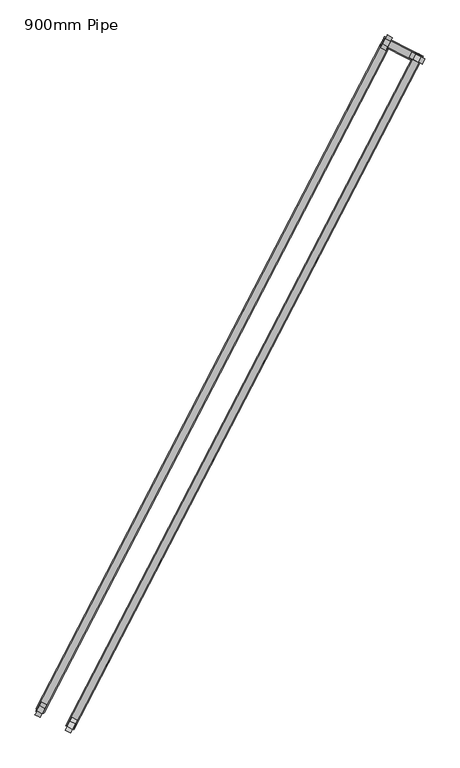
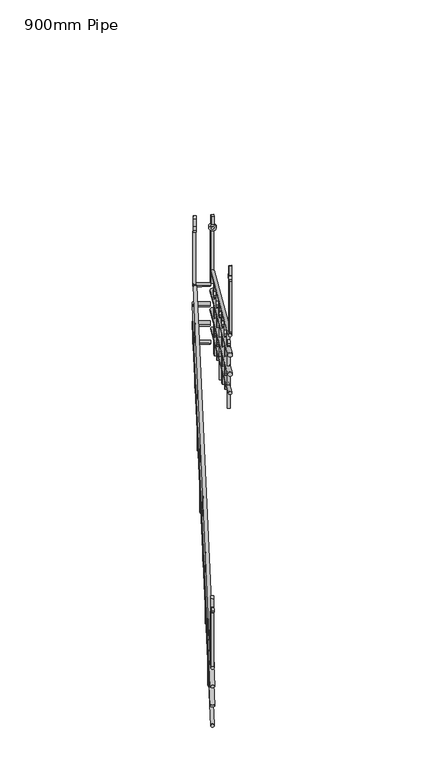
"""IFC4 building model written with IfcOpenShell, lengths in millimetres: railing geometry, 900mm Pipe."""

from ifc_helpers import new_model, si_unit, point, frame, frame_2d, origin, place, context, project, spatial, polyline, circle_curve, ellipse_curve, trimmed, segment, composite_curve, outline, extrude, source, transform, mapped, element, save
from ifc_brep_helpers import plane_surface, cylinder_surface, advanced_brep


def railing_900mm_pipe_8710e27b(model_context):
    return source(origin(), model_context, "Body", "SolidModel", [
        advanced_brep(
        [(7201.7798218, -26010.5348664, -2766.7703993), (7228.4133798, -26024.3426029, -2766.7703993), (8722.3106378, -23077.6033267, -1115.0), (8748.9441959, -23091.4110631, -1115.0), (8725.3167563, -23071.804865, -1115.0), (8752.0624335, -23085.3963363, -1115.0)],
        [
            (0, 1, ellipse_curve(frame((7215.0966008, -26017.4387346, -2766.7703993), z_axis=(-0.46025788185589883, -0.8877852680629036, 0.0), x_axis=(0.0, 0.0, -1.0)), 16.7703993, 15.0)),
            (1, 0, ellipse_curve(frame((7215.0966008, -26017.4387346, -2766.7703993), z_axis=(-0.46025788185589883, -0.8877852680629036, 0.0), x_axis=(0.0, 0.0, -1.0)), 16.7703993, 15.0)),
            (0, 2),
            (2, 3, ellipse_curve(frame((8735.6274168, -23084.5071949, -1115.0), z_axis=(-0.4479462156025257, -0.864037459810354, -0.22974650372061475), x_axis=(0.10574263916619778, 0.2039655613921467, -0.9732505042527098)), 15.4122705, 15.0)),
            (3, 1),
            (3, 2, ellipse_curve(frame((8735.6274168, -23084.5071949, -1115.0), z_axis=(-0.4479462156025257, -0.864037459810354, -0.22974650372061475), x_axis=(0.10574263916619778, 0.2039655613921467, -0.9732505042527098)), 15.4122705, 15.0)),
            (4, 5, ellipse_curve(frame((8738.6895949, -23078.6006006, -1115.0), z_axis=(0.4530341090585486, 0.8914931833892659, 0.0), x_axis=(-0.8914931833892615, 0.45303410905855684, 0.0)), 15.0004945, 15.0)),
            (5, 4, ellipse_curve(frame((8738.6895949, -23078.6006006, -1115.0), z_axis=(0.4530341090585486, 0.8914931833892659, 0.0), x_axis=(-0.8914931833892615, 0.45303410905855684, 0.0)), 15.0004945, 15.0)),
            (2, 4),
            (5, 3),
        ],
        [
            plane_surface(frame((7215.0966008, -26017.4387346, -2750.0), z_axis=(-0.46025788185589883, -0.8877852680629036, 0.0), x_axis=(0.8877852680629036, -0.46025788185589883, 0.0))),
            cylinder_surface(frame((7218.1840231, -26011.4834471, -2763.4164963), z_axis=(-0.41166987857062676, -0.7940645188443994, -0.44720180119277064), x_axis=(0.8877852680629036, -0.46025788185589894, 0.0)), 15.0),
            plane_surface(frame((8738.6895949, -23078.6006006, -1100.0), z_axis=(0.4530341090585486, 0.8914931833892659, 0.0), x_axis=(0.8914931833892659, -0.4530341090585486, 0.0))),
            cylinder_surface(frame((8733.9976827, -23087.6507673, -1115.0), z_axis=(-0.4602578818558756, -0.8877852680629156, 0.0), x_axis=(0.8877852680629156, -0.4602578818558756, 0.0)), 15.0),
        ],
        [
            (0, [[1, 2]]),
            (1, [[-1, 3, 4, 5]]),
            (1, [[-2, -5, 6, -3]]),
            (2, [[7, 8]]),
            (3, [[-4, 9, -8, 10]]),
            (3, [[-6, -10, -7, -9]]),
        ],
    ),
        advanced_brep(
        [(8739.124948, -23045.1704289, -1115.0), (8725.3167563, -23071.804865, -1115.0), (8873.566552, -23113.4902248, -1115.0), (8859.7583603, -23140.1246608, -1115.0)],
        [
            (0, 1, ellipse_curve(frame((8732.2208521, -23058.4876469, -1115.0), z_axis=(-0.8877852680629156, 0.4602578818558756, 0.0), x_axis=(-0.4602578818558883, -0.887785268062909, 0.0)), 15.0004945, 15.0)),
            (1, 0, ellipse_curve(frame((8732.2208521, -23058.4876469, -1115.0), z_axis=(-0.8877852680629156, 0.4602578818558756, 0.0), x_axis=(-0.4602578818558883, -0.887785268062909, 0.0)), 15.0004945, 15.0)),
            (2, 3, ellipse_curve(frame((8866.6624562, -23126.8074428, -1115.0), z_axis=(0.8877852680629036, -0.4602578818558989, 0.0), x_axis=(-0.46025788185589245, -0.8877852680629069, 0.0)), 15.0004945, 15.0)),
            (3, 2, ellipse_curve(frame((8866.6624562, -23126.8074428, -1115.0), z_axis=(0.8877852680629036, -0.4602578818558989, 0.0), x_axis=(-0.46025788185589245, -0.8877852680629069, 0.0)), 15.0004945, 15.0)),
            (0, 2),
            (3, 1),
        ],
        [
            plane_surface(frame((8732.2208521, -23058.4876469, -1100.0), z_axis=(-0.8877852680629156, 0.4602578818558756, 0.0), x_axis=(0.4602578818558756, 0.8877852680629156, 0.0))),
            plane_surface(frame((8866.6624562, -23126.8074428, -1100.0), z_axis=(0.8877852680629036, -0.4602578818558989, 0.0), x_axis=(0.4602578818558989, 0.8877852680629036, 0.0))),
            cylinder_surface(frame((8732.2208521, -23058.4876469, -1115.0), z_axis=(-0.8914931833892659, 0.4530341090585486, 0.0), x_axis=(-0.4530341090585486, -0.8914931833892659, 0.0)), 15.0),
        ],
        [
            (0, [[1, 2]]),
            (1, [[3, 4]]),
            (2, [[-1, 5, -4, 6]]),
            (2, [[-2, -6, -3, -5]]),
        ],
    ),
        advanced_brep(
        [(8900.3122292, -23127.0816961, -987.1344183), (8873.566552, -23113.4902248, -987.012622), (7362.6651288, -26093.0286077, 683.2296007), (7336.0315707, -26079.2208712, 683.2296007)],
        [
            (0, 1, ellipse_curve(frame((8886.9393906, -23120.2859604, -987.0735202), z_axis=(0.4530341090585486, 0.8914931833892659, 0.0), x_axis=(0.014475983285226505, -0.007356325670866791, -0.9998681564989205)), 16.7709521, 15.0)),
            (1, 0, ellipse_curve(frame((8886.9393906, -23120.2859604, -987.0735202), z_axis=(0.4530341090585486, 0.8914931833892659, 0.0), x_axis=(0.014475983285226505, -0.007356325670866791, -0.9998681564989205)), 16.7709521, 15.0)),
            (2, 3, ellipse_curve(frame((7349.3483498, -26086.1247394, 683.2296007), z_axis=(-0.46025788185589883, -0.8877852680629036, 0.0), x_axis=(0.0, 0.0, -1.0)), 16.7703993, 15.0)),
            (3, 2, ellipse_curve(frame((7349.3483498, -26086.1247394, 683.2296007), z_axis=(-0.46025788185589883, -0.8877852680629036, 0.0), x_axis=(0.0, 0.0, -1.0)), 16.7703993, 15.0)),
            (0, 2),
            (3, 1),
        ],
        [
            plane_surface(frame((8886.9393906, -23120.2859604, -970.3031209), z_axis=(0.4530341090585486, 0.8914931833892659, 0.0), x_axis=(0.8914931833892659, -0.4530341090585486, 0.0))),
            plane_surface(frame((7349.3483498, -26086.1247394, 700.0), z_axis=(-0.46025788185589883, -0.8877852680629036, 0.0), x_axis=(0.8877852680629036, -0.46025788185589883, 0.0))),
            cylinder_surface(frame((8883.8519683, -23126.241248, -983.7196172), z_axis=(0.41166987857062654, 0.7940645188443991, -0.44720180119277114), x_axis=(-0.8877852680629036, 0.4602578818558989, 0.0)), 15.0),
        ],
        [
            (0, [[1, 2]]),
            (1, [[3, 4]]),
            (2, [[-1, 5, -4, 6]]),
            (2, [[-2, -6, -3, -5]]),
        ],
    ),
        advanced_brep(
        [(7201.4574585, -26000.2931936, -2967.8886618), (7236.9688693, -26018.7035088, -2967.8886618), (8720.3585404, -23070.5052263, -1317.8886618), (8755.8699511, -23088.9155415, -1317.8886618)],
        [
            (0, 1, circle_curve(frame((7219.2131639, -26009.4983512, -2967.8886618), z_axis=(-0.41166987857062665, -0.7940645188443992, -0.44720180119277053), x_axis=(0.8877852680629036, -0.46025788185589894, 0.0)), 20.0)),
            (1, 0, circle_curve(frame((7219.2131639, -26009.4983512, -2967.8886618), z_axis=(-0.41166987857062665, -0.7940645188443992, -0.44720180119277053), x_axis=(0.8877852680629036, -0.46025788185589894, 0.0)), 20.0)),
            (2, 3, circle_curve(frame((8738.1142458, -23079.7103839, -1317.8886618), z_axis=(0.41166987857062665, 0.7940645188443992, 0.44720180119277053), x_axis=(0.8877852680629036, -0.46025788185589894, 0.0)), 20.0)),
            (3, 2, circle_curve(frame((8738.1142458, -23079.7103839, -1317.8886618), z_axis=(0.41166987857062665, 0.7940645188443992, 0.44720180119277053), x_axis=(0.8877852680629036, -0.46025788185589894, 0.0)), 20.0)),
            (0, 2),
            (3, 1),
        ],
        [
            plane_surface(frame((7215.0966008, -26037.0672033, -2915.1471204), z_axis=(-0.41166987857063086, -0.794064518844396, -0.4472018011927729), x_axis=(0.9113330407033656, -0.35869701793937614, -0.20201123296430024))),
            plane_surface(frame((8733.9976827, -23107.279236, -1265.1471204), z_axis=(0.41166987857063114, 0.7940645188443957, 0.4472018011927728), x_axis=(0.9113330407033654, -0.3586970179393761, -0.20201123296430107))),
            cylinder_surface(frame((7219.2131639, -26009.4983512, -2967.8886618), z_axis=(-0.41166987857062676, -0.7940645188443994, -0.44720180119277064), x_axis=(0.8877852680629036, -0.46025788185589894, 0.0)), 20.0),
        ],
        [
            (0, [[1, 2]]),
            (1, [[3, 4]]),
            (2, [[-1, 5, -4, 6]]),
            (2, [[-2, -6, -3, -5]]),
        ],
    ),
        advanced_brep(
        [(8716.2419773, -23078.4456097, -1320.0), (8751.753388, -23096.855925, -1320.0), (8718.6325243, -23073.8345157, -1320.0), (8754.143935, -23092.2448309, -1320.0)],
        [
            (0, 1, circle_curve(frame((8733.9976827, -23087.6507673, -1320.0), z_axis=(-0.4602578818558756, -0.8877852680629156, 0.0), x_axis=(0.8877852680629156, -0.4602578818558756, 0.0)), 20.0)),
            (1, 0, circle_curve(frame((8733.9976827, -23087.6507673, -1320.0), z_axis=(-0.4602578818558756, -0.8877852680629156, 0.0), x_axis=(0.8877852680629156, -0.4602578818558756, 0.0)), 20.0)),
            (2, 3, circle_curve(frame((8736.3882296, -23083.0396733, -1320.0), z_axis=(0.4602578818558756, 0.8877852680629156, 0.0), x_axis=(0.8877852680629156, -0.4602578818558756, 0.0)), 20.0)),
            (3, 2, circle_curve(frame((8736.3882296, -23083.0396733, -1320.0), z_axis=(0.4602578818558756, 0.8877852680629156, 0.0), x_axis=(0.8877852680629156, -0.4602578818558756, 0.0)), 20.0)),
            (0, 2),
            (3, 1),
        ],
        [
            plane_surface(frame((8733.9976827, -23087.6507673, -1260.0), z_axis=(-0.4602578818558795, -0.8877852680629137, 0.0), x_axis=(0.8877852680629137, -0.4602578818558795, 0.0))),
            plane_surface(frame((8736.3882296, -23083.0396733, -1260.0), z_axis=(0.4602578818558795, 0.8877852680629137, 0.0), x_axis=(0.8877852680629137, -0.4602578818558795, 0.0))),
            cylinder_surface(frame((8733.9976827, -23087.6507673, -1320.0), z_axis=(-0.4602578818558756, -0.8877852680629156, 0.0), x_axis=(0.8877852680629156, -0.4602578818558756, 0.0)), 20.0),
        ],
        [
            (0, [[1, 2]]),
            (1, [[3, 4]]),
            (2, [[-1, 5, -4, 6]]),
            (2, [[-2, -6, -3, -5]]),
        ],
    ),
        advanced_brep(
        [(8736.9687004, -23038.466111, -1320.0), (8718.5577782, -23073.9786924, -1320.0), (8871.4103044, -23106.7859069, -1320.0), (8852.9993822, -23142.2984883, -1320.0)],
        [
            (0, 1, ellipse_curve(frame((8727.7632393, -23056.2224017, -1320.0), z_axis=(-0.8877852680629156, 0.4602578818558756, 0.0), x_axis=(-0.4602578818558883, -0.887785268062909, 0.0)), 20.0006593, 20.0)),
            (1, 0, ellipse_curve(frame((8727.7632393, -23056.2224017, -1320.0), z_axis=(-0.8877852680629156, 0.4602578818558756, 0.0), x_axis=(-0.4602578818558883, -0.887785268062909, 0.0)), 20.0006593, 20.0)),
            (2, 3, ellipse_curve(frame((8862.2048433, -23124.5421976, -1320.0), z_axis=(0.8877852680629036, -0.4602578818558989, 0.0), x_axis=(-0.46025788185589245, -0.8877852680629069, 0.0)), 20.0006593, 20.0)),
            (3, 2, ellipse_curve(frame((8862.2048433, -23124.5421976, -1320.0), z_axis=(0.8877852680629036, -0.4602578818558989, 0.0), x_axis=(-0.46025788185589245, -0.8877852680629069, 0.0)), 20.0006593, 20.0)),
            (0, 2),
            (3, 1),
        ],
        [
            plane_surface(frame((8727.7632393, -23056.2224017, -1300.0), z_axis=(-0.8877852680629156, 0.4602578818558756, 0.0), x_axis=(0.4602578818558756, 0.8877852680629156, 0.0))),
            plane_surface(frame((8862.2048433, -23124.5421976, -1300.0), z_axis=(0.8877852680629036, -0.4602578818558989, 0.0), x_axis=(0.4602578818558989, 0.8877852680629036, 0.0))),
            cylinder_surface(frame((8727.7632393, -23056.2224017, -1320.0), z_axis=(-0.8914931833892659, 0.4530341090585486, 0.0), x_axis=(-0.4530341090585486, -0.8914931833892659, 0.0)), 20.0),
        ],
        [
            (0, [[1, 2]]),
            (1, [[3, 4]]),
            (2, [[-1, 5, -4, 6]]),
            (2, [[-2, -6, -3, -5]]),
        ],
    ),
        advanced_brep(
        [(8907.0712073, -23124.9078686, -1195.2448508), (8871.4103044, -23106.7859069, -1195.0824557), (7367.1040551, -26095.3298971, 477.6394677), (7331.5926444, -26076.9195818, 477.6394677)],
        [
            (0, 1, ellipse_curve(frame((8889.2407559, -23115.8468877, -1195.1636533), z_axis=(0.4530341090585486, 0.8914931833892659, 0.0), x_axis=(0.014475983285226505, -0.007356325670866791, -0.9998681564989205)), 22.3612695, 20.0)),
            (1, 0, ellipse_curve(frame((8889.2407559, -23115.8468877, -1195.1636533), z_axis=(0.4530341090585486, 0.8914931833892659, 0.0), x_axis=(0.014475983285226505, -0.007356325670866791, -0.9998681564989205)), 22.3612695, 20.0)),
            (2, 3, ellipse_curve(frame((7349.3483498, -26086.1247394, 477.6394677), z_axis=(-0.46025788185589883, -0.8877852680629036, 0.0), x_axis=(0.0, 0.0, -1.0)), 22.3605323, 20.0)),
            (3, 2, ellipse_curve(frame((7349.3483498, -26086.1247394, 477.6394677), z_axis=(-0.46025788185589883, -0.8877852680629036, 0.0), x_axis=(0.0, 0.0, -1.0)), 22.3605323, 20.0)),
            (0, 2),
            (3, 1),
        ],
        [
            plane_surface(frame((8889.2407559, -23115.8468877, -1172.8031209), z_axis=(0.4530341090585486, 0.8914931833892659, 0.0), x_axis=(0.8914931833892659, -0.4530341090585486, 0.0))),
            plane_surface(frame((7349.3483498, -26086.1247394, 500.0), z_axis=(-0.46025788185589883, -0.8877852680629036, 0.0), x_axis=(0.8877852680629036, -0.46025788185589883, 0.0))),
            cylinder_surface(frame((8885.1241928, -23123.7872712, -1190.6917827), z_axis=(0.41166987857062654, 0.7940645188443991, -0.44720180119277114), x_axis=(-0.8877852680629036, 0.4602578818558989, 0.0)), 20.0),
        ],
        [
            (0, [[1, 2]]),
            (1, [[3, 4]]),
            (2, [[-1, 5, -4, 6]]),
            (2, [[-2, -6, -3, -5]]),
        ],
    ),
        advanced_brep(
        [(7201.4574585, -26000.2931936, -3167.8886618), (7236.9688693, -26018.7035088, -3167.8886618), (8720.3585404, -23070.5052263, -1517.8886618), (8755.8699511, -23088.9155415, -1517.8886618)],
        [
            (0, 1, circle_curve(frame((7219.2131639, -26009.4983512, -3167.8886618), z_axis=(-0.41166987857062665, -0.7940645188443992, -0.44720180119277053), x_axis=(0.8877852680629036, -0.46025788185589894, 0.0)), 20.0)),
            (1, 0, circle_curve(frame((7219.2131639, -26009.4983512, -3167.8886618), z_axis=(-0.41166987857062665, -0.7940645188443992, -0.44720180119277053), x_axis=(0.8877852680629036, -0.46025788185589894, 0.0)), 20.0)),
            (2, 3, circle_curve(frame((8738.1142458, -23079.7103839, -1517.8886618), z_axis=(0.41166987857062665, 0.7940645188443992, 0.44720180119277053), x_axis=(0.8877852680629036, -0.46025788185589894, 0.0)), 20.0)),
            (3, 2, circle_curve(frame((8738.1142458, -23079.7103839, -1517.8886618), z_axis=(0.41166987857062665, 0.7940645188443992, 0.44720180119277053), x_axis=(0.8877852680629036, -0.46025788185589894, 0.0)), 20.0)),
            (0, 2),
            (3, 1),
        ],
        [
            plane_surface(frame((7215.0966008, -26037.0672033, -3115.1471204), z_axis=(-0.41166987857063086, -0.794064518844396, -0.4472018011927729), x_axis=(0.9113330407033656, -0.35869701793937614, -0.20201123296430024))),
            plane_surface(frame((8733.9976827, -23107.279236, -1465.1471204), z_axis=(0.41166987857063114, 0.7940645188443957, 0.4472018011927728), x_axis=(0.9113330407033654, -0.3586970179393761, -0.20201123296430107))),
            cylinder_surface(frame((7219.2131639, -26009.4983512, -3167.8886618), z_axis=(-0.41166987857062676, -0.7940645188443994, -0.44720180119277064), x_axis=(0.8877852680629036, -0.46025788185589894, 0.0)), 20.0),
        ],
        [
            (0, [[1, 2]]),
            (1, [[3, 4]]),
            (2, [[-1, 5, -4, 6]]),
            (2, [[-2, -6, -3, -5]]),
        ],
    ),
        advanced_brep(
        [(8716.2419773, -23078.4456097, -1520.0), (8751.753388, -23096.855925, -1520.0), (8718.6325243, -23073.8345157, -1520.0), (8754.143935, -23092.2448309, -1520.0)],
        [
            (0, 1, circle_curve(frame((8733.9976827, -23087.6507673, -1520.0), z_axis=(-0.4602578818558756, -0.8877852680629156, 0.0), x_axis=(0.8877852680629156, -0.4602578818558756, 0.0)), 20.0)),
            (1, 0, circle_curve(frame((8733.9976827, -23087.6507673, -1520.0), z_axis=(-0.4602578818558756, -0.8877852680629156, 0.0), x_axis=(0.8877852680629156, -0.4602578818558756, 0.0)), 20.0)),
            (2, 3, circle_curve(frame((8736.3882296, -23083.0396733, -1520.0), z_axis=(0.4602578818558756, 0.8877852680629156, 0.0), x_axis=(0.8877852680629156, -0.4602578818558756, 0.0)), 20.0)),
            (3, 2, circle_curve(frame((8736.3882296, -23083.0396733, -1520.0), z_axis=(0.4602578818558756, 0.8877852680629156, 0.0), x_axis=(0.8877852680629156, -0.4602578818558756, 0.0)), 20.0)),
            (0, 2),
            (3, 1),
        ],
        [
            plane_surface(frame((8733.9976827, -23087.6507673, -1460.0), z_axis=(-0.4602578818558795, -0.8877852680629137, 0.0), x_axis=(0.8877852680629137, -0.4602578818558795, 0.0))),
            plane_surface(frame((8736.3882296, -23083.0396733, -1460.0), z_axis=(0.4602578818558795, 0.8877852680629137, 0.0), x_axis=(0.8877852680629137, -0.4602578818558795, 0.0))),
            cylinder_surface(frame((8733.9976827, -23087.6507673, -1520.0), z_axis=(-0.4602578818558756, -0.8877852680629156, 0.0), x_axis=(0.8877852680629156, -0.4602578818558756, 0.0)), 20.0),
        ],
        [
            (0, [[1, 2]]),
            (1, [[3, 4]]),
            (2, [[-1, 5, -4, 6]]),
            (2, [[-2, -6, -3, -5]]),
        ],
    ),
        advanced_brep(
        [(8736.9687004, -23038.466111, -1520.0), (8718.5577782, -23073.9786924, -1520.0), (8871.4103044, -23106.7859069, -1520.0), (8852.9993822, -23142.2984883, -1520.0)],
        [
            (0, 1, ellipse_curve(frame((8727.7632393, -23056.2224017, -1520.0), z_axis=(-0.8877852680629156, 0.4602578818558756, 0.0), x_axis=(-0.4602578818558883, -0.887785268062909, 0.0)), 20.0006593, 20.0)),
            (1, 0, ellipse_curve(frame((8727.7632393, -23056.2224017, -1520.0), z_axis=(-0.8877852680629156, 0.4602578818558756, 0.0), x_axis=(-0.4602578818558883, -0.887785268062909, 0.0)), 20.0006593, 20.0)),
            (2, 3, ellipse_curve(frame((8862.2048433, -23124.5421976, -1520.0), z_axis=(0.8877852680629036, -0.4602578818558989, 0.0), x_axis=(-0.46025788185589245, -0.8877852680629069, 0.0)), 20.0006593, 20.0)),
            (3, 2, ellipse_curve(frame((8862.2048433, -23124.5421976, -1520.0), z_axis=(0.8877852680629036, -0.4602578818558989, 0.0), x_axis=(-0.46025788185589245, -0.8877852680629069, 0.0)), 20.0006593, 20.0)),
            (0, 2),
            (3, 1),
        ],
        [
            plane_surface(frame((8727.7632393, -23056.2224017, -1500.0), z_axis=(-0.8877852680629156, 0.4602578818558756, 0.0), x_axis=(0.4602578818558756, 0.8877852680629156, 0.0))),
            plane_surface(frame((8862.2048433, -23124.5421976, -1500.0), z_axis=(0.8877852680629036, -0.4602578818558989, 0.0), x_axis=(0.4602578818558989, 0.8877852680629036, 0.0))),
            cylinder_surface(frame((8727.7632393, -23056.2224017, -1520.0), z_axis=(-0.8914931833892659, 0.4530341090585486, 0.0), x_axis=(-0.4530341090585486, -0.8914931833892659, 0.0)), 20.0),
        ],
        [
            (0, [[1, 2]]),
            (1, [[3, 4]]),
            (2, [[-1, 5, -4, 6]]),
            (2, [[-2, -6, -3, -5]]),
        ],
    ),
        advanced_brep(
        [(8907.0712073, -23124.9078686, -1395.2448508), (8871.4103044, -23106.7859069, -1395.0824557), (7367.1040551, -26095.3298971, 277.6394677), (7331.5926444, -26076.9195818, 277.6394677)],
        [
            (0, 1, ellipse_curve(frame((8889.2407559, -23115.8468877, -1395.1636533), z_axis=(0.4530341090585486, 0.8914931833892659, 0.0), x_axis=(0.014475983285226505, -0.007356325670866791, -0.9998681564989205)), 22.3612695, 20.0)),
            (1, 0, ellipse_curve(frame((8889.2407559, -23115.8468877, -1395.1636533), z_axis=(0.4530341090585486, 0.8914931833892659, 0.0), x_axis=(0.014475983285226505, -0.007356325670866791, -0.9998681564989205)), 22.3612695, 20.0)),
            (2, 3, ellipse_curve(frame((7349.3483498, -26086.1247394, 277.6394677), z_axis=(-0.46025788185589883, -0.8877852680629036, 0.0), x_axis=(0.0, 0.0, -1.0)), 22.3605323, 20.0)),
            (3, 2, ellipse_curve(frame((7349.3483498, -26086.1247394, 277.6394677), z_axis=(-0.46025788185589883, -0.8877852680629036, 0.0), x_axis=(0.0, 0.0, -1.0)), 22.3605323, 20.0)),
            (0, 2),
            (3, 1),
        ],
        [
            plane_surface(frame((8889.2407559, -23115.8468877, -1372.8031209), z_axis=(0.4530341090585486, 0.8914931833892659, 0.0), x_axis=(0.8914931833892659, -0.4530341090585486, 0.0))),
            plane_surface(frame((7349.3483498, -26086.1247394, 300.0), z_axis=(-0.46025788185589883, -0.8877852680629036, 0.0), x_axis=(0.8877852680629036, -0.46025788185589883, 0.0))),
            cylinder_surface(frame((8885.1241928, -23123.7872712, -1390.6917827), z_axis=(0.41166987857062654, 0.7940645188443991, -0.44720180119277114), x_axis=(-0.8877852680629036, 0.4602578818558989, 0.0)), 20.0),
        ],
        [
            (0, [[1, 2]]),
            (1, [[3, 4]]),
            (2, [[-1, 5, -4, 6]]),
            (2, [[-2, -6, -3, -5]]),
        ],
    ),
        advanced_brep(
        [(7201.7798218, -26010.5348664, -3366.7703993), (7228.4133798, -26024.3426029, -3366.7703993), (8722.3106378, -23077.6033267, -1715.0), (8748.9441959, -23091.4110631, -1715.0), (8725.3167563, -23071.804865, -1715.0), (8752.0624335, -23085.3963363, -1715.0)],
        [
            (0, 1, ellipse_curve(frame((7215.0966008, -26017.4387346, -3366.7703993), z_axis=(-0.46025788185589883, -0.8877852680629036, 0.0), x_axis=(0.0, 0.0, -1.0)), 16.7703993, 15.0)),
            (1, 0, ellipse_curve(frame((7215.0966008, -26017.4387346, -3366.7703993), z_axis=(-0.46025788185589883, -0.8877852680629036, 0.0), x_axis=(0.0, 0.0, -1.0)), 16.7703993, 15.0)),
            (0, 2),
            (2, 3, ellipse_curve(frame((8735.6274168, -23084.5071949, -1715.0), z_axis=(-0.4479462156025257, -0.864037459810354, -0.22974650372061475), x_axis=(0.10574263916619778, 0.2039655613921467, -0.9732505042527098)), 15.4122705, 15.0)),
            (3, 1),
            (3, 2, ellipse_curve(frame((8735.6274168, -23084.5071949, -1715.0), z_axis=(-0.4479462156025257, -0.864037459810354, -0.22974650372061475), x_axis=(0.10574263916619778, 0.2039655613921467, -0.9732505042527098)), 15.4122705, 15.0)),
            (4, 5, ellipse_curve(frame((8738.6895949, -23078.6006006, -1715.0), z_axis=(0.4530341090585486, 0.8914931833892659, 0.0), x_axis=(-0.8914931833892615, 0.45303410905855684, 0.0)), 15.0004945, 15.0)),
            (5, 4, ellipse_curve(frame((8738.6895949, -23078.6006006, -1715.0), z_axis=(0.4530341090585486, 0.8914931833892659, 0.0), x_axis=(-0.8914931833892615, 0.45303410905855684, 0.0)), 15.0004945, 15.0)),
            (2, 4),
            (5, 3),
        ],
        [
            plane_surface(frame((7215.0966008, -26017.4387346, -3350.0), z_axis=(-0.46025788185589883, -0.8877852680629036, 0.0), x_axis=(0.8877852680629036, -0.46025788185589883, 0.0))),
            cylinder_surface(frame((7218.1840231, -26011.4834471, -3363.4164963), z_axis=(-0.41166987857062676, -0.7940645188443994, -0.44720180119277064), x_axis=(0.8877852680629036, -0.46025788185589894, 0.0)), 15.0),
            plane_surface(frame((8738.6895949, -23078.6006006, -1700.0), z_axis=(0.4530341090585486, 0.8914931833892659, 0.0), x_axis=(0.8914931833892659, -0.4530341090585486, 0.0))),
            cylinder_surface(frame((8733.9976827, -23087.6507673, -1715.0), z_axis=(-0.4602578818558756, -0.8877852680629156, 0.0), x_axis=(0.8877852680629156, -0.4602578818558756, 0.0)), 15.0),
        ],
        [
            (0, [[1, 2]]),
            (1, [[-1, 3, 4, 5]]),
            (1, [[-2, -5, 6, -3]]),
            (2, [[7, 8]]),
            (3, [[-4, 9, -8, 10]]),
            (3, [[-6, -10, -7, -9]]),
        ],
    ),
        advanced_brep(
        [(8739.124948, -23045.1704289, -1715.0), (8725.3167563, -23071.804865, -1715.0), (8873.566552, -23113.4902248, -1715.0), (8859.7583603, -23140.1246608, -1715.0)],
        [
            (0, 1, ellipse_curve(frame((8732.2208521, -23058.4876469, -1715.0), z_axis=(-0.8877852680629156, 0.4602578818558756, 0.0), x_axis=(-0.4602578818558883, -0.887785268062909, 0.0)), 15.0004945, 15.0)),
            (1, 0, ellipse_curve(frame((8732.2208521, -23058.4876469, -1715.0), z_axis=(-0.8877852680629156, 0.4602578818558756, 0.0), x_axis=(-0.4602578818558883, -0.887785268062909, 0.0)), 15.0004945, 15.0)),
            (2, 3, ellipse_curve(frame((8866.6624562, -23126.8074428, -1715.0), z_axis=(0.8877852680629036, -0.4602578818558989, 0.0), x_axis=(-0.46025788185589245, -0.8877852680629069, 0.0)), 15.0004945, 15.0)),
            (3, 2, ellipse_curve(frame((8866.6624562, -23126.8074428, -1715.0), z_axis=(0.8877852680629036, -0.4602578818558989, 0.0), x_axis=(-0.46025788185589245, -0.8877852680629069, 0.0)), 15.0004945, 15.0)),
            (0, 2),
            (3, 1),
        ],
        [
            plane_surface(frame((8732.2208521, -23058.4876469, -1700.0), z_axis=(-0.8877852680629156, 0.4602578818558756, 0.0), x_axis=(0.4602578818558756, 0.8877852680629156, 0.0))),
            plane_surface(frame((8866.6624562, -23126.8074428, -1700.0), z_axis=(0.8877852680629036, -0.4602578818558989, 0.0), x_axis=(0.4602578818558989, 0.8877852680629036, 0.0))),
            cylinder_surface(frame((8732.2208521, -23058.4876469, -1715.0), z_axis=(-0.8914931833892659, 0.4530341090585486, 0.0), x_axis=(-0.4530341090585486, -0.8914931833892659, 0.0)), 15.0),
        ],
        [
            (0, [[1, 2]]),
            (1, [[3, 4]]),
            (2, [[-1, 5, -4, 6]]),
            (2, [[-2, -6, -3, -5]]),
        ],
    ),
        advanced_brep(
        [(8900.3122292, -23127.0816961, -1587.1344183), (8873.566552, -23113.4902248, -1587.012622), (7362.6651288, -26093.0286077, 83.2296007), (7336.0315707, -26079.2208712, 83.2296007)],
        [
            (0, 1, ellipse_curve(frame((8886.9393906, -23120.2859604, -1587.0735202), z_axis=(0.4530341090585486, 0.8914931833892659, 0.0), x_axis=(0.014475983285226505, -0.007356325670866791, -0.9998681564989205)), 16.7709521, 15.0)),
            (1, 0, ellipse_curve(frame((8886.9393906, -23120.2859604, -1587.0735202), z_axis=(0.4530341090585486, 0.8914931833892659, 0.0), x_axis=(0.014475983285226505, -0.007356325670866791, -0.9998681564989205)), 16.7709521, 15.0)),
            (2, 3, ellipse_curve(frame((7349.3483498, -26086.1247394, 83.2296007), z_axis=(-0.46025788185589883, -0.8877852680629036, 0.0), x_axis=(0.0, 0.0, -1.0)), 16.7703993, 15.0)),
            (3, 2, ellipse_curve(frame((7349.3483498, -26086.1247394, 83.2296007), z_axis=(-0.46025788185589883, -0.8877852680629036, 0.0), x_axis=(0.0, 0.0, -1.0)), 16.7703993, 15.0)),
            (0, 2),
            (3, 1),
        ],
        [
            plane_surface(frame((8886.9393906, -23120.2859604, -1570.3031209), z_axis=(0.4530341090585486, 0.8914931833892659, 0.0), x_axis=(0.8914931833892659, -0.4530341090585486, 0.0))),
            plane_surface(frame((7349.3483498, -26086.1247394, 100.0), z_axis=(-0.46025788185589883, -0.8877852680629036, 0.0), x_axis=(0.8877852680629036, -0.46025788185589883, 0.0))),
            cylinder_surface(frame((8883.8519683, -23126.241248, -1583.7196172), z_axis=(0.41166987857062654, 0.7940645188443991, -0.44720180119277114), x_axis=(-0.8877852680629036, 0.4602578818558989, 0.0)), 15.0),
        ],
        [
            (0, [[1, 2]]),
            (1, [[3, 4]]),
            (2, [[-1, 5, -4, 6]]),
            (2, [[-2, -6, -3, -5]]),
        ],
    ),
        extrude(outline(composite_curve([segment(trimmed(circle_curve(frame_2d((0.0, -31.7499999)), 31.75), [point((0.0, -63.4999999))], [point((0.0, 0.0))], False, "CARTESIAN"), True, "CONTINUOUS"), segment(trimmed(circle_curve(frame_2d((0.0, -31.7499999)), 31.75), [point((0.0, 0.0))], [point((0.0, -63.4999999))], False, "CARTESIAN"), True, "CONTINUOUS")], self_intersect=False), holes=[composite_curve([segment(trimmed(circle_curve(frame_2d((0.0, -31.7499999)), 12.7), [point((0.0, -44.4499999))], [point((0.0, -19.0499999))], True, "CARTESIAN"), True, "CONTINUOUS"), segment(trimmed(circle_curve(frame_2d((0.0, -31.7499999)), 12.7), [point((0.0, -19.0499999))], [point((0.0, -44.4499999))], True, "CARTESIAN"), True, "CONTINUOUS")], self_intersect=False)]), frame((7525.1497098, -25774.6170755, 386.5221548), z_axis=(-0.8877852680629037, 0.460257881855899, 0.0), x_axis=(0.0, 0.0, 1.0)), (0.0, 0.0, 1.0), 25.4),
        extrude(outline(polyline([(7498.1120884, -25778.4814352), (7520.6618342, -25790.1719854), (7508.971284, -25812.7217312), (7486.4215382, -25801.031181), (7498.1120884, -25778.4814352)])), frame((0.0, 0.0, -300.0), z_axis=(0.0, 0.0, 1.0), x_axis=(1.0, 0.0, 0.0)), (0.0, 0.0, 1.0), 654.7721548),
        extrude(outline(polyline([(317.5, 0.0), (317.5, -25.4), (234.9497907, -25.4), (222.2502094, 0.0), (317.5, 0.0)])), frame((7504.691247, -25814.0791306, 735.7721548), z_axis=(-0.8877852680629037, 0.460257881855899, 0.0), x_axis=(0.0, 0.0, -1.0)), (0.0, 0.0, 1.0), 25.4),
        extrude(outline(composite_curve([segment(trimmed(circle_curve(frame_2d((0.0, -31.7500001)), 31.75), [point((0.0, -63.5000001))], [point((0.0, 0.0))], False, "CARTESIAN"), True, "CONTINUOUS"), segment(trimmed(circle_curve(frame_2d((0.0, -31.7500001)), 31.75), [point((0.0, 0.0))], [point((0.0, -63.5000001))], False, "CARTESIAN"), True, "CONTINUOUS")], self_intersect=False), holes=[composite_curve([segment(trimmed(circle_curve(frame_2d((0.0, -31.7500001)), 12.7), [point((0.0, -44.4500001))], [point((0.0, -19.0500001))], True, "CARTESIAN"), True, "CONTINUOUS"), segment(trimmed(circle_curve(frame_2d((0.0, -31.7500001)), 12.7), [point((0.0, -19.0500001))], [point((0.0, -44.4500001))], True, "CARTESIAN"), True, "CONTINUOUS")], self_intersect=False)]), frame((7755.2786508, -25330.7244414, 136.5303962), z_axis=(-0.8877852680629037, 0.460257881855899, 0.0), x_axis=(0.0, 0.0, 1.0)), (0.0, 0.0, 1.0), 25.4),
        extrude(outline(polyline([(7728.2410293, -25334.5888012), (7750.7907751, -25346.2793514), (7739.1002249, -25368.8290972), (7716.5504791, -25357.138547), (7728.2410293, -25334.5888012)])), frame((0.0, 0.0, -450.0), z_axis=(0.0, 0.0, 1.0), x_axis=(1.0, 0.0, 0.0)), (0.0, 0.0, 1.0), 554.7803962),
        extrude(outline(polyline([(317.5, 0.0), (317.5, -25.4), (234.9497907, -25.4), (222.2502093, 0.0), (317.5, 0.0)])), frame((7734.8201879, -25370.1864966, 485.7803962), z_axis=(-0.8877852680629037, 0.460257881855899, 0.0), x_axis=(0.0, 0.0, -1.0)), (0.0, 0.0, 1.0), 25.4),
        extrude(outline(composite_curve([segment(trimmed(circle_curve(frame_2d((0.0, -31.75)), 31.75), [point((0.0, -63.5))], [point((0.0, 0.0))], False, "CARTESIAN"), True, "CONTINUOUS"), segment(trimmed(circle_curve(frame_2d((0.0, -31.75)), 31.75), [point((0.0, 0.0))], [point((0.0, -63.5))], False, "CARTESIAN"), True, "CONTINUOUS")], self_intersect=False), holes=[composite_curve([segment(trimmed(circle_curve(frame_2d((0.0, -31.75)), 12.7), [point((0.0, -44.45))], [point((0.0, -19.05))], True, "CARTESIAN"), True, "CONTINUOUS"), segment(trimmed(circle_curve(frame_2d((0.0, -31.75)), 12.7), [point((0.0, -19.05))], [point((0.0, -44.45))], True, "CARTESIAN"), True, "CONTINUOUS")], self_intersect=False)]), frame((7985.4075917, -24886.8318074, -113.4613623), z_axis=(-0.8877852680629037, 0.460257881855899, 0.0), x_axis=(0.0, 0.0, 1.0)), (0.0, 0.0, 1.0), 25.4),
        extrude(outline(polyline([(7958.3699702, -24890.6961671), (7980.9197161, -24902.3867173), (7969.2291659, -24924.9364631), (7946.67942, -24913.2459129), (7958.3699702, -24890.6961671)])), frame((0.0, 0.0, -750.0), z_axis=(0.0, 0.0, 1.0), x_axis=(1.0, 0.0, 0.0)), (0.0, 0.0, 1.0), 604.7886377),
        extrude(outline(polyline([(317.5, 0.0), (317.5, -25.4), (234.9497907, -25.4), (222.2502094, 0.0), (317.5, 0.0)])), frame((7964.9491289, -24926.2938626, 235.7886377), z_axis=(-0.8877852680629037, 0.460257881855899, 0.0), x_axis=(0.0, 0.0, -1.0)), (0.0, 0.0, 1.0), 25.4),
        extrude(outline(composite_curve([segment(trimmed(circle_curve(frame_2d((0.0, -31.7499999)), 31.75), [point((0.0, -63.5))], [point((0.0, 0.0))], False, "CARTESIAN"), True, "CONTINUOUS"), segment(trimmed(circle_curve(frame_2d((0.0, -31.7499999)), 31.75), [point((0.0, 0.0))], [point((0.0, -63.5))], False, "CARTESIAN"), True, "CONTINUOUS")], self_intersect=False), holes=[composite_curve([segment(trimmed(circle_curve(frame_2d((0.0, -31.7499999)), 12.7), [point((0.0, -44.4499999))], [point((0.0, -19.0499999))], True, "CARTESIAN"), True, "CONTINUOUS"), segment(trimmed(circle_curve(frame_2d((0.0, -31.7499999)), 12.7), [point((0.0, -19.0499999))], [point((0.0, -44.4499999))], True, "CARTESIAN"), True, "CONTINUOUS")], self_intersect=False)]), frame((8215.5365326, -24442.9391734, -363.4778452), z_axis=(-0.8877852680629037, 0.460257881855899, 0.0), x_axis=(0.0, 0.0, 1.0)), (0.0, 0.0, 1.0), 25.4),
        extrude(outline(polyline([(8188.4989112, -24446.8035331), (8211.048657, -24458.4940833), (8199.3581068, -24481.0438291), (8176.808361, -24469.3532789), (8188.4989112, -24446.8035331)])), frame((0.0, 0.0, -1050.0), z_axis=(0.0, 0.0, 1.0), x_axis=(1.0, 0.0, 0.0)), (0.0, 0.0, 1.0), 654.7721548),
        extrude(outline(polyline([(317.5, 0.0), (317.5, -25.4), (234.9497907, -25.4), (222.2502094, 0.0), (317.5, 0.0)])), frame((8195.0780698, -24482.4012285, -14.2278452), z_axis=(-0.8877852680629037, 0.460257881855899, 0.0), x_axis=(0.0, 0.0, -1.0)), (0.0, 0.0, 1.0), 25.4),
        extrude(outline(composite_curve([segment(trimmed(circle_curve(frame_2d((0.0, -31.75)), 31.75), [point((0.0, -63.5))], [point((0.0, 0.0))], False, "CARTESIAN"), True, "CONTINUOUS"), segment(trimmed(circle_curve(frame_2d((0.0, -31.75)), 31.75), [point((0.0, 0.0))], [point((0.0, -63.5))], False, "CARTESIAN"), True, "CONTINUOUS")], self_intersect=False), holes=[composite_curve([segment(trimmed(circle_curve(frame_2d((0.0, -31.75)), 12.7), [point((0.0, -44.45))], [point((0.0, -19.05))], True, "CARTESIAN"), True, "CONTINUOUS"), segment(trimmed(circle_curve(frame_2d((0.0, -31.75)), 12.7), [point((0.0, -19.05))], [point((0.0, -44.45))], True, "CARTESIAN"), True, "CONTINUOUS")], self_intersect=False)]), frame((8445.6654736, -23999.0465394, -613.4696038), z_axis=(-0.8877852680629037, 0.460257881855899, 0.0), x_axis=(0.0, 0.0, 1.0)), (0.0, 0.0, 1.0), 25.4),
        extrude(outline(polyline([(8418.6278521, -24002.9108991), (8441.1775979, -24014.6014493), (8429.4870477, -24037.1511951), (8406.9373019, -24025.4606449), (8418.6278521, -24002.9108991)])), frame((0.0, 0.0, -1200.0), z_axis=(0.0, 0.0, 1.0), x_axis=(1.0, 0.0, 0.0)), (0.0, 0.0, 1.0), 554.7803962),
        extrude(outline(polyline([(317.5, 0.0), (317.5, -25.4), (234.9497907, -25.4), (222.2502093, 0.0), (317.5, 0.0)])), frame((8425.2070107, -24038.5085945, -264.2196038), z_axis=(-0.8877852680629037, 0.460257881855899, 0.0), x_axis=(0.0, 0.0, -1.0)), (0.0, 0.0, 1.0), 25.4),
        extrude(outline(composite_curve([segment(trimmed(circle_curve(frame_2d((0.0, -31.7500001)), 31.75), [point((0.0, -63.5))], [point((0.0, 0.0))], False, "CARTESIAN"), True, "CONTINUOUS"), segment(trimmed(circle_curve(frame_2d((0.0, -31.7500001)), 31.75), [point((0.0, 0.0))], [point((0.0, -63.5))], False, "CARTESIAN"), True, "CONTINUOUS")], self_intersect=False), holes=[composite_curve([segment(trimmed(circle_curve(frame_2d((0.0, -31.7500001)), 12.7), [point((0.0, -44.4500001))], [point((0.0, -19.0500001))], True, "CARTESIAN"), True, "CONTINUOUS"), segment(trimmed(circle_curve(frame_2d((0.0, -31.7500001)), 12.7), [point((0.0, -19.0500001))], [point((0.0, -44.4500001))], True, "CARTESIAN"), True, "CONTINUOUS")], self_intersect=False)]), frame((8675.7944145, -23555.1539053, -863.4613623), z_axis=(-0.8877852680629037, 0.460257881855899, 0.0), x_axis=(0.0, 0.0, 1.0)), (0.0, 0.0, 1.0), 25.4),
        extrude(outline(polyline([(8648.756793, -23559.018265), (8671.3065388, -23570.7088152), (8659.6159886, -23593.258561), (8637.0662428, -23581.5680108), (8648.756793, -23559.018265)])), frame((0.0, 0.0, -1500.0), z_axis=(0.0, 0.0, 1.0), x_axis=(1.0, 0.0, 0.0)), (0.0, 0.0, 1.0), 604.7886377),
        extrude(outline(polyline([(317.5, 0.0), (317.5, -25.4), (234.9497907, -25.4), (222.2502094, 0.0), (317.5, 0.0)])), frame((8655.3359516, -23594.6159605, -514.2113623), z_axis=(-0.8877852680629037, 0.460257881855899, 0.0), x_axis=(0.0, 0.0, -1.0)), (0.0, 0.0, 1.0), 25.4),
        extrude(outline(composite_curve([segment(trimmed(circle_curve(frame_2d((0.0, -31.7500001)), 31.75), [point((0.0, -63.5))], [point((0.0, 0.0))], False, "CARTESIAN"), True, "CONTINUOUS"), segment(trimmed(circle_curve(frame_2d((0.0, -31.7500001)), 31.75), [point((0.0, 0.0))], [point((0.0, -63.5))], False, "CARTESIAN"), True, "CONTINUOUS")], self_intersect=False), holes=[composite_curve([segment(trimmed(circle_curve(frame_2d((0.0, -31.7500001)), 12.7), [point((0.0, -44.4500001))], [point((0.0, -19.0500001))], True, "CARTESIAN"), True, "CONTINUOUS"), segment(trimmed(circle_curve(frame_2d((0.0, -31.7500001)), 12.7), [point((0.0, -19.0500001))], [point((0.0, -44.4500001))], True, "CARTESIAN"), True, "CONTINUOUS")], self_intersect=False)]), frame((8592.5319315, -23388.1153878, -1400.6994486), z_axis=(-0.8877852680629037, 0.46025788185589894, 0.0), x_axis=(0.0, 0.0, -1.0)), (0.0, 0.0, 1.0), 25.4),
        extrude(outline(polyline([(8597.0198072, -23372.5604779), (8574.4700614, -23360.8699277), (8586.1606116, -23338.3201819), (8608.7103574, -23350.0107321), (8597.0198072, -23372.5604779)])), frame((0.0, 0.0, -1950.0494486), z_axis=(0.0, 0.0, 1.0), x_axis=(1.0, 0.0, 0.0)), (0.0, 0.0, 1.0), 517.6),
        extrude(outline(polyline([(317.5, 0.0), (317.5, -25.4), (222.2502094, -25.4), (234.9497907, 0.0), (317.5, 0.0)])), frame((8601.2998442, -23371.2030784, -1051.4494486), z_axis=(-0.8877852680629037, 0.46025788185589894, 0.0), x_axis=(0.0, 0.0, -1.0)), (0.0, 0.0, 1.0), 25.4),
        extrude(outline(composite_curve([segment(trimmed(circle_curve(frame_2d((0.0, -31.75)), 31.75), [point((0.0, -63.5))], [point((0.0, 0.0))], False, "CARTESIAN"), True, "CONTINUOUS"), segment(trimmed(circle_curve(frame_2d((0.0, -31.75)), 31.75), [point((0.0, 0.0))], [point((0.0, -63.5))], False, "CARTESIAN"), True, "CONTINUOUS")], self_intersect=False), holes=[composite_curve([segment(trimmed(circle_curve(frame_2d((0.0, -31.75)), 12.7), [point((0.0, -44.45))], [point((0.0, -19.05))], True, "CARTESIAN"), True, "CONTINUOUS"), segment(trimmed(circle_curve(frame_2d((0.0, -31.75)), 12.7), [point((0.0, -19.05))], [point((0.0, -44.45))], True, "CARTESIAN"), True, "CONTINUOUS")], self_intersect=False)]), frame((8362.4029906, -23832.0080218, -1650.6664829), z_axis=(-0.8877852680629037, 0.46025788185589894, 0.0), x_axis=(0.0, 0.0, -1.0)), (0.0, 0.0, 1.0), 25.4),
        extrude(outline(polyline([(8366.8908663, -23816.4531119), (8344.3411205, -23804.7625617), (8356.0316707, -23782.2128159), (8378.5814165, -23793.9033661), (8366.8908663, -23816.4531119)])), frame((0.0, 0.0, -2250.0), z_axis=(0.0, 0.0, 1.0), x_axis=(1.0, 0.0, 0.0)), (0.0, 0.0, 1.0), 567.5835171),
        extrude(outline(polyline([(317.5, 0.0), (317.5, -25.4), (222.2502093, -25.4), (234.9497906, 0.0), (317.5, 0.0)])), frame((8371.1709033, -23815.0957125, -1301.4164829), z_axis=(-0.8877852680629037, 0.46025788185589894, 0.0), x_axis=(0.0, 0.0, -1.0)), (0.0, 0.0, 1.0), 25.4),
        extrude(outline(composite_curve([segment(trimmed(circle_curve(frame_2d((0.0, -31.75)), 31.75), [point((0.0, -63.5000001))], [point((0.0, 0.0))], False, "CARTESIAN"), True, "CONTINUOUS"), segment(trimmed(circle_curve(frame_2d((0.0, -31.75)), 31.75), [point((0.0, 0.0))], [point((0.0, -63.5000001))], False, "CARTESIAN"), True, "CONTINUOUS")], self_intersect=False), holes=[composite_curve([segment(trimmed(circle_curve(frame_2d((0.0, -31.75)), 12.7), [point((0.0, -44.45))], [point((0.0, -19.05))], True, "CARTESIAN"), True, "CONTINUOUS"), segment(trimmed(circle_curve(frame_2d((0.0, -31.75)), 12.7), [point((0.0, -19.05))], [point((0.0, -44.45))], True, "CARTESIAN"), True, "CONTINUOUS")], self_intersect=False)]), frame((8132.2740497, -24275.9006559, -1900.6582414), z_axis=(-0.8877852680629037, 0.46025788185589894, 0.0), x_axis=(0.0, 0.0, -1.0)), (0.0, 0.0, 1.0), 25.4),
        extrude(outline(polyline([(8136.7619253, -24260.345746), (8114.2121795, -24248.6551958), (8125.9027297, -24226.1054499), (8148.4524755, -24237.7960001), (8136.7619253, -24260.345746)])), frame((0.0, 0.0, -2550.0), z_axis=(0.0, 0.0, 1.0), x_axis=(1.0, 0.0, 0.0)), (0.0, 0.0, 1.0), 617.5917586),
        extrude(outline(polyline([(317.5, 0.0), (317.5, -25.4), (222.2502094, -25.4), (234.9497907, 0.0), (317.5, 0.0)])), frame((8141.0419623, -24258.9883465, -1551.4082414), z_axis=(-0.8877852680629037, 0.46025788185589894, 0.0), x_axis=(0.0, 0.0, -1.0)), (0.0, 0.0, 1.0), 25.4),
        extrude(outline(composite_curve([segment(trimmed(circle_curve(frame_2d((0.0, -31.75)), 31.75), [point((0.0, -63.5))], [point((0.0, 0.0))], False, "CARTESIAN"), True, "CONTINUOUS"), segment(trimmed(circle_curve(frame_2d((0.0, -31.75)), 31.75), [point((0.0, 0.0))], [point((0.0, -63.5))], False, "CARTESIAN"), True, "CONTINUOUS")], self_intersect=False), holes=[composite_curve([segment(trimmed(circle_curve(frame_2d((0.0, -31.75)), 12.7), [point((0.0, -44.45))], [point((0.0, -19.05))], True, "CARTESIAN"), True, "CONTINUOUS"), segment(trimmed(circle_curve(frame_2d((0.0, -31.75)), 12.7), [point((0.0, -19.05))], [point((0.0, -44.45))], True, "CARTESIAN"), True, "CONTINUOUS")], self_intersect=False)]), frame((7902.1451088, -24719.7932899, -2150.6747243), z_axis=(-0.8877852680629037, 0.46025788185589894, 0.0), x_axis=(0.0, 0.0, -1.0)), (0.0, 0.0, 1.0), 25.4),
        extrude(outline(polyline([(7906.6329844, -24704.23838), (7884.0832386, -24692.5478298), (7895.7737888, -24669.998084), (7918.3235346, -24681.6886342), (7906.6329844, -24704.23838)])), frame((0.0, 0.0, -2700.0247243), z_axis=(0.0, 0.0, 1.0), x_axis=(1.0, 0.0, 0.0)), (0.0, 0.0, 1.0), 517.6),
        extrude(outline(polyline([(317.5, 0.0), (317.5, -25.4), (222.2502094, -25.4), (234.9497907, 0.0), (317.5, 0.0)])), frame((7910.9130214, -24702.8809805, -1801.4247243), z_axis=(-0.8877852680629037, 0.46025788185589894, 0.0), x_axis=(0.0, 0.0, -1.0)), (0.0, 0.0, 1.0), 25.4),
        extrude(outline(composite_curve([segment(trimmed(circle_curve(frame_2d((0.0, -31.75)), 31.75), [point((0.0, -63.5))], [point((0.0, 0.0))], False, "CARTESIAN"), True, "CONTINUOUS"), segment(trimmed(circle_curve(frame_2d((0.0, -31.75)), 31.75), [point((0.0, 0.0))], [point((0.0, -63.5))], False, "CARTESIAN"), True, "CONTINUOUS")], self_intersect=False), holes=[composite_curve([segment(trimmed(circle_curve(frame_2d((0.0, -31.75)), 12.7), [point((0.0, -44.45))], [point((0.0, -19.05))], True, "CARTESIAN"), True, "CONTINUOUS"), segment(trimmed(circle_curve(frame_2d((0.0, -31.75)), 12.7), [point((0.0, -19.05))], [point((0.0, -44.45))], True, "CARTESIAN"), True, "CONTINUOUS")], self_intersect=False)]), frame((7672.0161678, -25163.6859239, -2400.6664829), z_axis=(-0.8877852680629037, 0.46025788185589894, 0.0), x_axis=(0.0, 0.0, -1.0)), (0.0, 0.0, 1.0), 25.4),
        extrude(outline(polyline([(7676.5040435, -25148.131014), (7653.9542977, -25136.4404638), (7665.6448479, -25113.890718), (7688.1945937, -25125.5812682), (7676.5040435, -25148.131014)])), frame((0.0, 0.0, -3000.0), z_axis=(0.0, 0.0, 1.0), x_axis=(1.0, 0.0, 0.0)), (0.0, 0.0, 1.0), 567.5835171),
        extrude(outline(polyline([(317.5, 0.0), (317.5, -25.4), (222.2502093, -25.4), (234.9497906, 0.0), (317.5, 0.0)])), frame((7680.7840805, -25146.7736146, -2051.4164829), z_axis=(-0.8877852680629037, 0.46025788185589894, 0.0), x_axis=(0.0, 0.0, -1.0)), (0.0, 0.0, 1.0), 25.4),
        extrude(outline(composite_curve([segment(trimmed(circle_curve(frame_2d((0.0, -31.7500001)), 31.75), [point((0.0, -63.5000001))], [point((0.0, 0.0))], False, "CARTESIAN"), True, "CONTINUOUS"), segment(trimmed(circle_curve(frame_2d((0.0, -31.7500001)), 31.75), [point((0.0, 0.0))], [point((0.0, -63.5000001))], False, "CARTESIAN"), True, "CONTINUOUS")], self_intersect=False), holes=[composite_curve([segment(trimmed(circle_curve(frame_2d((0.0, -31.7500001)), 12.7), [point((0.0, -44.4500001))], [point((0.0, -19.0500001))], True, "CARTESIAN"), True, "CONTINUOUS"), segment(trimmed(circle_curve(frame_2d((0.0, -31.7500001)), 12.7), [point((0.0, -19.0500001))], [point((0.0, -44.4500001))], True, "CARTESIAN"), True, "CONTINUOUS")], self_intersect=False)]), frame((7441.8872269, -25607.578558, -2650.6582414), z_axis=(-0.8877852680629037, 0.46025788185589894, 0.0), x_axis=(0.0, 0.0, -1.0)), (0.0, 0.0, 1.0), 25.4),
        extrude(outline(polyline([(7446.3751026, -25592.023648), (7423.8253567, -25580.3330978), (7435.5159069, -25557.783352), (7458.0656528, -25569.4739022), (7446.3751026, -25592.023648)])), frame((0.0, 0.0, -3300.0), z_axis=(0.0, 0.0, 1.0), x_axis=(1.0, 0.0, 0.0)), (0.0, 0.0, 1.0), 617.5917586),
        extrude(outline(polyline([(317.5, 0.0), (317.5, -25.4), (222.2502094, -25.4), (234.9497907, 0.0), (317.5, 0.0)])), frame((7450.6551396, -25590.6662486, -2301.4082414), z_axis=(-0.8877852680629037, 0.46025788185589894, 0.0), x_axis=(0.0, 0.0, -1.0)), (0.0, 0.0, 1.0), 25.4),
        extrude(outline(composite_curve([segment(trimmed(circle_curve(frame_2d((0.0, -31.75)), 31.75), [point((0.0, -63.5))], [point((0.0, 0.0))], False, "CARTESIAN"), True, "CONTINUOUS"), segment(trimmed(circle_curve(frame_2d((0.0, -31.75)), 31.75), [point((0.0, 0.0))], [point((0.0, -63.5))], False, "CARTESIAN"), True, "CONTINUOUS")], self_intersect=False), holes=[composite_curve([segment(trimmed(circle_curve(frame_2d((0.0, -31.75)), 12.7), [point((0.0, -44.45))], [point((0.0, -19.05))], True, "CARTESIAN"), True, "CONTINUOUS"), segment(trimmed(circle_curve(frame_2d((0.0, -31.75)), 12.7), [point((0.0, -19.05))], [point((0.0, -44.45))], True, "CARTESIAN"), True, "CONTINUOUS")], self_intersect=False)]), frame((8845.976853, -23130.5413089, -520.65), z_axis=(0.4530341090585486, 0.8914931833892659, 0.0), x_axis=(0.0, 0.0, -1.0)), (0.0, 0.0, 1.0), 25.4),
        extrude(outline(polyline([(8861.5676906, -23134.9027345), (8873.074757, -23112.2588077), (8895.7186838, -23123.7658741), (8884.2116174, -23146.4098009), (8861.5676906, -23134.9027345)])), frame((0.0, 0.0, -1100.0), z_axis=(0.0, 0.0, 1.0), x_axis=(1.0, 0.0, 0.0)), (0.0, 0.0, 1.0), 547.6),
        extrude(outline(polyline([(8874.4668645, -23116.5276818), (8897.1107914, -23128.0347482), (8885.603725, -23150.6786751), (8862.9597981, -23139.1716087), (8874.4668645, -23116.5276818)])), frame((0.0, 0.0, -488.9), z_axis=(0.0, 0.0, 1.0), x_axis=(1.0, 0.0, 0.0)), (0.0, 0.0, 1.0), 88.9),
        extrude(outline(composite_curve([segment(trimmed(circle_curve(frame_2d((0.0, -31.75)), 31.75), [point((0.0, -63.5000001))], [point((0.0, 0.0))], False, "CARTESIAN"), True, "CONTINUOUS"), segment(trimmed(circle_curve(frame_2d((0.0, -31.75)), 31.75), [point((0.0, 0.0))], [point((0.0, -63.5000001))], False, "CARTESIAN"), True, "CONTINUOUS")], self_intersect=False), holes=[composite_curve([segment(trimmed(circle_curve(frame_2d((0.0, -31.75)), 12.7), [point((0.0, -44.45))], [point((0.0, -19.05))], True, "CARTESIAN"), True, "CONTINUOUS"), segment(trimmed(circle_curve(frame_2d((0.0, -31.75)), 12.7), [point((0.0, -19.05))], [point((0.0, -44.45))], True, "CARTESIAN"), True, "CONTINUOUS")], self_intersect=False)]), frame((8742.2553759, -23099.31584, -533.2468791), z_axis=(-0.8877852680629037, 0.46025788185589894, 0.0), x_axis=(0.0, 0.0, -1.0)), (0.0, 0.0, 1.0), 25.4),
        extrude(outline(polyline([(8746.7432515, -23083.76093), (8724.1935057, -23072.0703798), (8735.8840559, -23049.520634), (8758.4338017, -23061.2111842), (8746.7432515, -23083.76093)])), frame((0.0, 0.0, -1100.0), z_axis=(0.0, 0.0, 1.0), x_axis=(1.0, 0.0, 0.0)), (0.0, 0.0, 1.0), 535.0031209),
        extrude(outline(polyline([(317.5, 0.0), (317.5, -25.4), (222.2502093, -25.4), (234.9497907, 0.0), (317.5, 0.0)])), frame((8751.0232885, -23082.4035306, -183.9968791), z_axis=(-0.8877852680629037, 0.46025788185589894, 0.0), x_axis=(0.0, 0.0, -1.0)), (0.0, 0.0, 1.0), 25.4),
        extrude(outline(composite_curve([segment(trimmed(circle_curve(frame_2d((0.0, -31.75)), 31.75), [point((0.0, -63.5))], [point((0.0, 0.0))], False, "CARTESIAN"), True, "CONTINUOUS"), segment(trimmed(circle_curve(frame_2d((0.0, -31.75)), 31.75), [point((0.0, 0.0))], [point((0.0, -63.5))], False, "CARTESIAN"), True, "CONTINUOUS")], self_intersect=False), holes=[composite_curve([segment(trimmed(circle_curve(frame_2d((0.0, -31.75)), 12.7), [point((0.0, -44.45))], [point((0.0, -19.05))], True, "CARTESIAN"), True, "CONTINUOUS"), segment(trimmed(circle_curve(frame_2d((0.0, -31.75)), 12.7), [point((0.0, -19.05))], [point((0.0, -44.45))], True, "CARTESIAN"), True, "CONTINUOUS")], self_intersect=False)]), frame((7380.9896339, -26052.6855164, 1273.100206), z_axis=(-0.8877852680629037, 0.460257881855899, 0.0), x_axis=(0.0, 0.0, 1.0)), (0.0, 0.0, 1.0), 25.4),
        extrude(outline(polyline([(0.0, -25.4), (0.0, 0.0), (542.837657, 0.0), (555.5372383, -25.4), (0.0, -25.4)])), frame((7364.8112081, -26090.7901721, 1241.350206), z_axis=(-0.8877852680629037, 0.460257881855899, 0.0), x_axis=(0.0, 0.0, -1.0)), (0.0, 0.0, 1.0), 25.4),
        extrude(outline(polyline([(317.5, 0.0), (317.5, -25.4), (234.9497906, -25.4), (222.2502093, 0.0), (317.5, 0.0)])), frame((7360.5311711, -26092.1475716, 1622.350206), z_axis=(-0.8877852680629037, 0.460257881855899, 0.0), x_axis=(0.0, 0.0, -1.0)), (0.0, 0.0, 1.0), 25.4),
        extrude(outline(composite_curve([segment(trimmed(circle_curve(frame_2d((0.0, -31.75)), 31.75), [point((0.0, -63.5))], [point((0.0, 0.0))], False, "CARTESIAN"), True, "CONTINUOUS"), segment(trimmed(circle_curve(frame_2d((0.0, -31.75)), 31.75), [point((0.0, 0.0))], [point((0.0, -63.5))], False, "CARTESIAN"), True, "CONTINUOUS")], self_intersect=False), holes=[composite_curve([segment(trimmed(circle_curve(frame_2d((0.0, -31.75)), 12.7), [point((0.0, -44.45))], [point((0.0, -19.05))], True, "CARTESIAN"), True, "CONTINUOUS"), segment(trimmed(circle_curve(frame_2d((0.0, -31.75)), 12.7), [point((0.0, -19.05))], [point((0.0, -44.45))], True, "CARTESIAN"), True, "CONTINUOUS")], self_intersect=False)]), frame((7217.5115095, -26040.3738761, -2164.400206), z_axis=(-0.8877852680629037, 0.46025788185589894, 0.0), x_axis=(0.0, 0.0, -1.0)), (0.0, 0.0, 1.0), 25.4),
        extrude(outline(polyline([(0.0, -25.4), (0.0, 0.0), (555.5372384, 0.0), (542.837657, -25.4), (0.0, -25.4)])), frame((7221.9993852, -26024.8189662, -2196.150206), z_axis=(-0.8877852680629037, 0.46025788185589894, 0.0), x_axis=(0.0, 0.0, -1.0)), (0.0, 0.0, 1.0), 25.4),
        extrude(outline(polyline([(317.5, 0.0), (317.5, -25.4), (222.2502094, -25.4), (234.9497907, 0.0), (317.5, 0.0)])), frame((7226.2794222, -26023.4615668, -1815.150206), z_axis=(-0.8877852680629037, 0.46025788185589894, 0.0), x_axis=(0.0, 0.0, -1.0)), (0.0, 0.0, 1.0), 25.4),
    ])


if __name__ == "__main__":
    model = new_model("IFC4")
    model_context = context("Model", 3, world=origin())
    ifc_project = project(units=[si_unit("LENGTHUNIT", "METRE", prefix="MILLI")], contexts=[model_context])
    site = spatial("IfcSite", under=ifc_project)
    building = spatial("IfcBuilding", under=site)
    placement = place(None, origin())
    railing_900mm_pipe_shape = railing_900mm_pipe_8710e27b(model_context)
    element("IfcRailing", 1, ObjectType="900mm Pipe", at=placement, inside=building, context=model_context, shape_type="MappedRepresentation", body=[
        mapped(railing_900mm_pipe_shape, transform((0.0, 0.0, 0.0), x_axis=(1.0, 0.0, 0.0), y_axis=(0.0, 1.0, 0.0), z_axis=(0.0, 0.0, 1.0))),
    ])
    save(model, "model.ifc")
